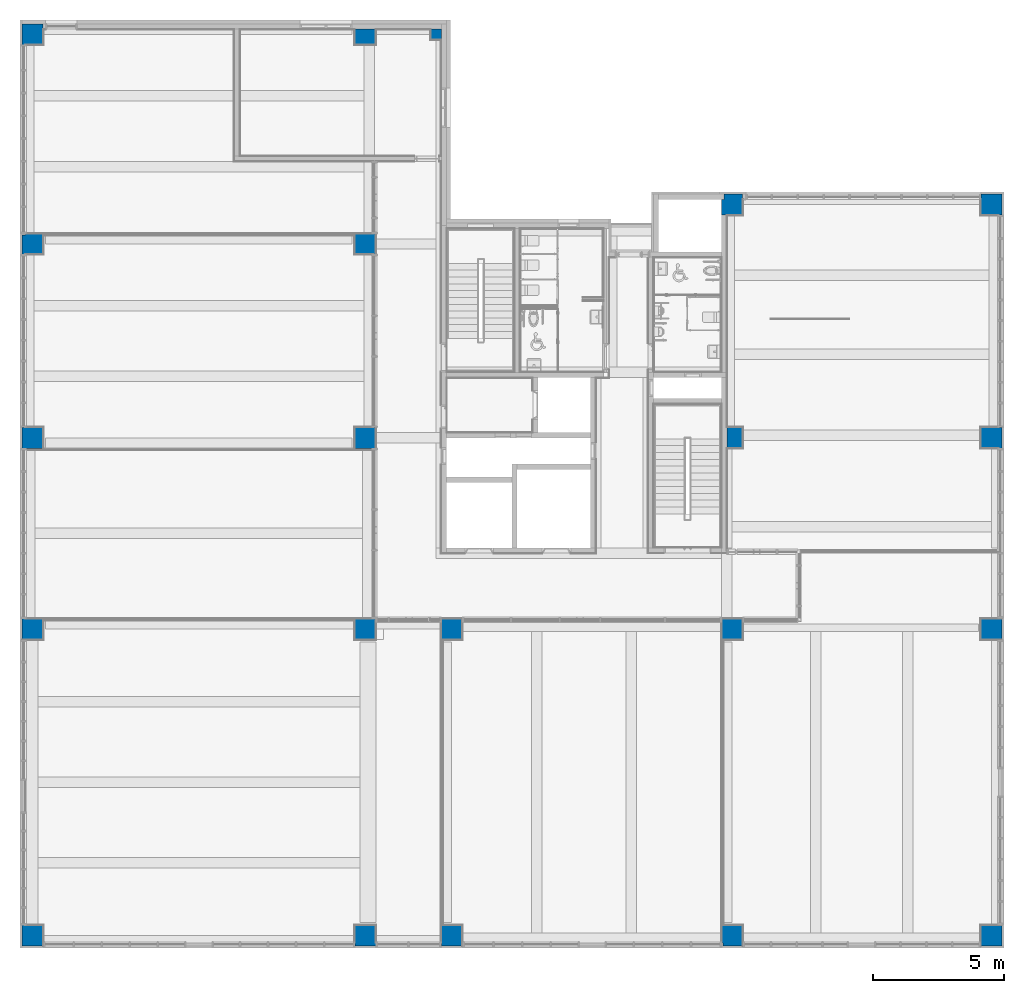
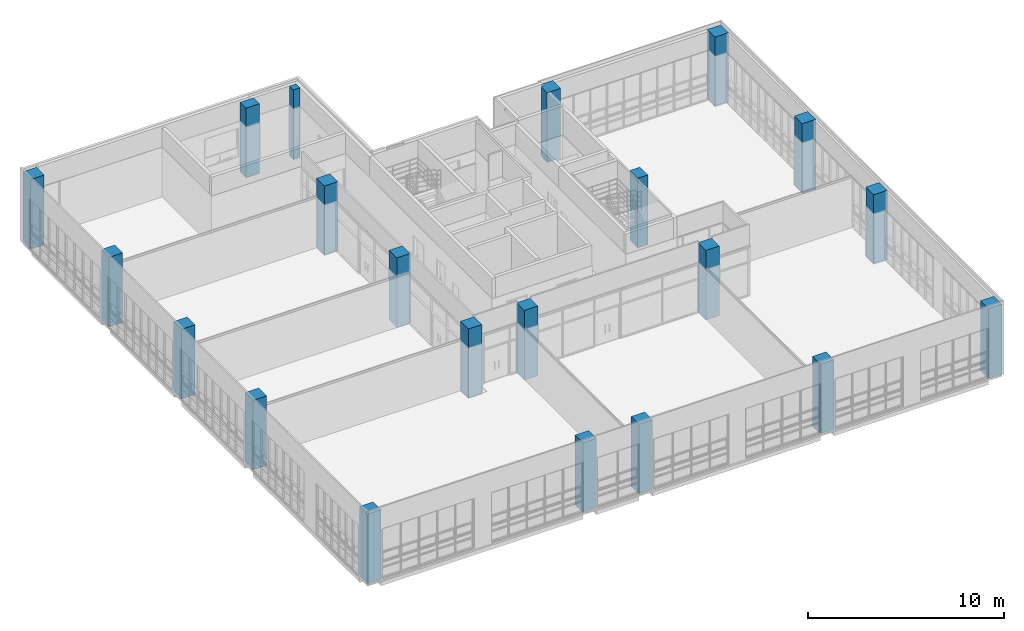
# One storey, part 1 of 74: 21 columns.
"""IFC2X3 building model written with IfcOpenShell, lengths in millimetres."""

from ifc_helpers import new_model, entity, si_unit, converted_unit, derived_unit, direction, frame, frame_2d, origin, origin_2d_with_axis, place, context, subcontext, project, spatial, polyline, rectangle, outline, extrude, source, transform, mapped, material, type_object, type_shapes, element, save


model = new_model("IFC2X3")

# Units and contexts
model_context = context("Model", 3, precision=0.01, world=origin(), true_north=direction((6.123031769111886e-17, 1.0)))
body_context = subcontext(model_context, "Body", "Model", "MODEL_VIEW")
ifc_project = project(units=[si_unit("LENGTHUNIT", "METRE", prefix="MILLI"), si_unit("AREAUNIT", "SQUARE_METRE"), si_unit("VOLUMEUNIT", "CUBIC_METRE"), converted_unit("PLANEANGLEUNIT", "DEGREE", entity("IfcRatioMeasure", 0.017453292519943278), si_unit("PLANEANGLEUNIT", "RADIAN"), dimensions=[0, 0, 0, 0, 0, 0, 0]), si_unit("MASSUNIT", "GRAM", prefix="KILO"), derived_unit("MASSDENSITYUNIT", [(si_unit("MASSUNIT", "GRAM", prefix="KILO"), 1), (si_unit("LENGTHUNIT", "METRE"), -3)]), derived_unit("MOMENTOFINERTIAUNIT", [(si_unit("LENGTHUNIT", "METRE"), 4)]), si_unit("TIMEUNIT", "SECOND"), si_unit("FREQUENCYUNIT", "HERTZ"), si_unit("THERMODYNAMICTEMPERATUREUNIT", "DEGREE_CELSIUS"), derived_unit("THERMALTRANSMITTANCEUNIT", [(si_unit("MASSUNIT", "GRAM", prefix="KILO"), 1), (si_unit("THERMODYNAMICTEMPERATUREUNIT", "KELVIN"), -1), (si_unit("TIMEUNIT", "SECOND"), -3)]), derived_unit("VOLUMETRICFLOWRATEUNIT", [(si_unit("LENGTHUNIT", "METRE"), 3), (si_unit("TIMEUNIT", "SECOND"), -1)]), derived_unit("MASSFLOWRATEUNIT", [(si_unit("MASSUNIT", "GRAM", prefix="KILO"), 1), (si_unit("TIMEUNIT", "SECOND"), -1)]), derived_unit("ROTATIONALFREQUENCYUNIT", [(si_unit("TIMEUNIT", "SECOND"), -1)]), si_unit("ELECTRICCURRENTUNIT", "AMPERE"), si_unit("ELECTRICVOLTAGEUNIT", "VOLT"), si_unit("POWERUNIT", "WATT"), si_unit("FORCEUNIT", "NEWTON", prefix="KILO"), si_unit("ILLUMINANCEUNIT", "LUX"), si_unit("LUMINOUSFLUXUNIT", "LUMEN"), si_unit("LUMINOUSINTENSITYUNIT", "CANDELA"), derived_unit("USERDEFINED", [(si_unit("MASSUNIT", "GRAM", prefix="KILO"), -1), (si_unit("LENGTHUNIT", "METRE"), -2), (si_unit("TIMEUNIT", "SECOND"), 3), (si_unit("LUMINOUSFLUXUNIT", "LUMEN"), 1)]), derived_unit("SOUNDPOWERUNIT", [(si_unit("MASSUNIT", "GRAM", prefix="KILO"), 1), (si_unit("LENGTHUNIT", "METRE"), 2), (si_unit("TIMEUNIT", "SECOND"), -3)]), derived_unit("SOUNDPRESSUREUNIT", [(si_unit("MASSUNIT", "GRAM", prefix="KILO"), 1), (si_unit("LENGTHUNIT", "METRE"), -1), (si_unit("TIMEUNIT", "SECOND"), -2)]), derived_unit("LINEARVELOCITYUNIT", [(si_unit("LENGTHUNIT", "METRE"), 1), (si_unit("TIMEUNIT", "SECOND"), -1)]), si_unit("PRESSUREUNIT", "PASCAL"), derived_unit("USERDEFINED", [(si_unit("LENGTHUNIT", "METRE"), -2), (si_unit("MASSUNIT", "GRAM", prefix="KILO"), 1), (si_unit("TIMEUNIT", "SECOND"), -2)]), derived_unit("LINEARFORCEUNIT", [(si_unit("MASSUNIT", "GRAM", prefix="KILO"), 1), (si_unit("LENGTHUNIT", "METRE"), 1), (si_unit("TIMEUNIT", "SECOND"), -2), (si_unit("LENGTHUNIT", "METRE"), -1)]), derived_unit("PLANARFORCEUNIT", [(si_unit("MASSUNIT", "GRAM", prefix="KILO"), 1), (si_unit("LENGTHUNIT", "METRE"), 1), (si_unit("TIMEUNIT", "SECOND"), -2), (si_unit("LENGTHUNIT", "METRE"), -2)])], contexts=[model_context])

# Site, building, storey
site_placement = place(None, frame((-14167.972527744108, -657.2125860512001, 0.0)))
site = spatial("IfcSite", under=ifc_project, at=site_placement, Name="Default", CompositionType="ELEMENT")
building_placement = place(site_placement, origin())
building = spatial("IfcBuilding", under=site, at=building_placement, Name="Sample Building", CompositionType="ELEMENT")
storey_placement = place(building_placement, frame((0.0, 0.0, 4800.0)))
storey = spatial("IfcBuildingStorey", under=building, at=storey_placement, Name="지상 2층", CompositionType="ELEMENT", Elevation=4800.000000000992)

# Columns
ifc_material = material(Name="KBIMS-콘크리트")
column_type_1 = type_object("IfcColumnType", Name="CL111-철근콘크리트구조 기둥 (각형)1:CL111-철근콘크리트구조 기둥 (각형)_800x800_B2-7C3", PredefinedType="COLUMN", material=ifc_material)
shared_shape_1 = source(origin(), body_context, "Body", "SweptSolid", [
    extrude(rectangle(XDim=799.9999999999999, YDim=800.0, at=frame_2d((-5.684341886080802e-14, 0.0), x_axis=(1.0, 0.0))), frame((14467.955105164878, 957.2121951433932, 4800.0), z_axis=(0.0, 0.0, 1.0), x_axis=(0.0, -1.0, 0.0)), (0.0, 0.0, 1.0), 4350.000000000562),
])
type_shapes(column_type_1, [shared_shape_1])
column_1_placement = place(storey_placement, frame((0.0, 0.0, -4800.0)))
element("IfcColumn", 1, at=column_1_placement, inside=storey, type_object=column_type_1, material=ifc_material, Name="CL111-철근콘크리트구조 기둥 (각형)1:CL111-철근콘크리트구조 기둥 (각형)_800x800_B2-7C3", ObjectType="CL111-철근콘크리트구조 기둥 (각형)1:CL111-철근콘크리트구조 기둥 (각형)_800x800_B2-7C3", context=body_context, shape_type="MappedRepresentation", body=[
    mapped(shared_shape_1, transform((0.0, 0.0, 0.0), scale=1.0)),
])
column_type_2 = type_object("IfcColumnType", Name="CL111-철근콘크리트구조 기둥 (각형)1:CL111-철근콘크리트구조 기둥 (각형)_800x800_2-7C2", PredefinedType="COLUMN", material=ifc_material)
shared_shape_2 = source(origin(), body_context, "Body", "SweptSolid", [
    extrude(rectangle(XDim=799.9999999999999, YDim=800.0, at=frame_2d((-5.684341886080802e-14, 0.0), x_axis=(1.0, 0.0))), frame((27167.955141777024, 957.2121951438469, 4800.0), z_axis=(0.0, 0.0, 1.0), x_axis=(0.0, -1.0, 0.0)), (0.0, 0.0, 1.0), 4350.000000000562),
])
type_shapes(column_type_2, [shared_shape_2])
column_2_placement = place(storey_placement, frame((0.0, 0.0, -4800.0)))
element("IfcColumn", 2, at=column_2_placement, inside=storey, type_object=column_type_2, material=ifc_material, Name="CL111-철근콘크리트구조 기둥 (각형)1:CL111-철근콘크리트구조 기둥 (각형)_800x800_2-7C2", ObjectType="CL111-철근콘크리트구조 기둥 (각형)1:CL111-철근콘크리트구조 기둥 (각형)_800x800_2-7C2", context=body_context, shape_type="MappedRepresentation", body=[
    mapped(shared_shape_2, transform((0.0, 0.0, 0.0), scale=1.0)),
])
column_type_3 = type_object("IfcColumnType", Name="CL111-철근콘크리트구조 기둥 (각형)1:CL111-철근콘크리트구조 기둥 (각형)_800x800_2-7C2", PredefinedType="COLUMN", material=ifc_material)
shared_shape_3 = source(origin(), body_context, "Body", "SweptSolid", [
    extrude(rectangle(XDim=799.9999999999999, YDim=800.0, at=frame_2d((-5.684341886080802e-14, 0.0), x_axis=(1.0, 0.0))), frame((30467.95511434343, 957.2121951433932, 4800.0), z_axis=(0.0, 0.0, 1.0), x_axis=(0.0, -1.0, 0.0)), (0.0, 0.0, 1.0), 4350.000000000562),
])
type_shapes(column_type_3, [shared_shape_3])
column_3_placement = place(storey_placement, frame((0.0, 0.0, -4800.0)))
element("IfcColumn", 3, at=column_3_placement, inside=storey, type_object=column_type_3, material=ifc_material, Name="CL111-철근콘크리트구조 기둥 (각형)1:CL111-철근콘크리트구조 기둥 (각형)_800x800_2-7C2", ObjectType="CL111-철근콘크리트구조 기둥 (각형)1:CL111-철근콘크리트구조 기둥 (각형)_800x800_2-7C2", context=body_context, shape_type="MappedRepresentation", body=[
    mapped(shared_shape_3, transform((0.0, 0.0, 0.0), scale=1.0)),
])
column_type_4 = type_object("IfcColumnType", Name="CL111-철근콘크리트구조 기둥 (각형)1:CL111-철근콘크리트구조 기둥 (각형)_800x800_2-7C2", PredefinedType="COLUMN", material=ifc_material)
shared_shape_4 = source(origin(), body_context, "Body", "SweptSolid", [
    extrude(outline(polyline([(-491.6666333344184, -283.33911645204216), (183.33326666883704, -283.33911645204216), (183.33326666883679, -233.32176709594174), (308.33336666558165, -233.32176709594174), (308.33336666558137, 516.660883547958), (-491.6666333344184, 516.660883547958), (-491.6666333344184, -283.33911645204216)])), frame((41051.29425822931, 865.5455618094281, 4800.0), z_axis=(0.0, 0.0, 1.0), x_axis=(0.0, -1.0, 0.0)), (0.0, 0.0, 1.0), 4350.000000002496),
])
type_shapes(column_type_4, [shared_shape_4])
column_4_placement = place(storey_placement, frame((0.0, 0.0, -4800.0)))
element("IfcColumn", 4, at=column_4_placement, inside=storey, type_object=column_type_4, material=ifc_material, Name="CL111-철근콘크리트구조 기둥 (각형)1:CL111-철근콘크리트구조 기둥 (각형)_800x800_2-7C2", ObjectType="CL111-철근콘크리트구조 기둥 (각형)1:CL111-철근콘크리트구조 기둥 (각형)_800x800_2-7C2", context=body_context, shape_type="MappedRepresentation", body=[
    mapped(shared_shape_4, transform((0.0, 0.0, 0.0), scale=1.0)),
])
column_type_5 = type_object("IfcColumnType", Name="CL111-철근콘크리트구조 기둥 (각형)1:CL111-철근콘크리트구조 기둥 (각형)_800x800_B2-7C3", PredefinedType="COLUMN", material=ifc_material)
shared_shape_5 = source(origin(), body_context, "Body", "SweptSolid", [
    extrude(rectangle(XDim=799.9999999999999, YDim=800.0, at=frame_2d((0.0, -4.348521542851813e-12), x_axis=(1.0, 0.0))), frame((51067.96383810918, 957.2126170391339, 4800.0), z_axis=(0.0, 0.0, 1.0), x_axis=(0.0, -1.0, 0.0)), (0.0, 0.0, 1.0), 4350.000000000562),
])
type_shapes(column_type_5, [shared_shape_5])
column_5_placement = place(storey_placement, frame((0.0, 0.0, -4800.0)))
element("IfcColumn", 5, at=column_5_placement, inside=storey, type_object=column_type_5, material=ifc_material, Name="CL111-철근콘크리트구조 기둥 (각형)1:CL111-철근콘크리트구조 기둥 (각형)_800x800_B2-7C3", ObjectType="CL111-철근콘크리트구조 기둥 (각형)1:CL111-철근콘크리트구조 기둥 (각형)_800x800_B2-7C3", context=body_context, shape_type="MappedRepresentation", body=[
    mapped(shared_shape_5, transform((0.0, 0.0, 0.0), scale=1.0)),
])
column_type_6 = type_object("IfcColumnType", Name="CL111-철근콘크리트구조 기둥 (각형)1:CL111-철근콘크리트구조 기둥 (각형)_800x800_2-7C2", PredefinedType="COLUMN", material=ifc_material)
shared_shape_6 = source(origin(), body_context, "Body", "SweptSolid", [
    extrude(rectangle(XDim=800.0000000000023, YDim=800.0000000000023, at=origin_2d_with_axis()), frame((14467.95510516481, 12657.21261703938, 4800.0), z_axis=(0.0, 0.0, 1.0), x_axis=(0.0, -1.0, 0.0)), (0.0, 0.0, 1.0), 4350.000000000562),
])
type_shapes(column_type_6, [shared_shape_6])
column_6_placement = place(storey_placement, frame((0.0, 0.0, -4800.0)))
element("IfcColumn", 6, at=column_6_placement, inside=storey, type_object=column_type_6, material=ifc_material, Name="CL111-철근콘크리트구조 기둥 (각형)1:CL111-철근콘크리트구조 기둥 (각형)_800x800_2-7C2", ObjectType="CL111-철근콘크리트구조 기둥 (각형)1:CL111-철근콘크리트구조 기둥 (각형)_800x800_2-7C2", context=body_context, shape_type="MappedRepresentation", body=[
    mapped(shared_shape_6, transform((0.0, 0.0, 0.0), scale=1.0)),
])
column_type_7 = type_object("IfcColumnType", Name="CL111-철근콘크리트구조 기둥 (각형)1:CL111-철근콘크리트구조 기둥 (각형)_800x800_2-7C2", PredefinedType="COLUMN", material=ifc_material)
shared_shape_7 = source(origin(), body_context, "Body", "SweptSolid", [
    extrude(rectangle(XDim=800.0, YDim=800.0, at=origin_2d_with_axis()), frame((27167.955141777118, 12657.21261703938, 4800.0), z_axis=(0.0, 0.0, 1.0), x_axis=(0.0, -1.0, 0.0)), (0.0, 0.0, 1.0), 4350.000000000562),
])
type_shapes(column_type_7, [shared_shape_7])
column_7_placement = place(storey_placement, frame((0.0, 0.0, -4800.0)))
element("IfcColumn", 7, at=column_7_placement, inside=storey, type_object=column_type_7, material=ifc_material, Name="CL111-철근콘크리트구조 기둥 (각형)1:CL111-철근콘크리트구조 기둥 (각형)_800x800_2-7C2", ObjectType="CL111-철근콘크리트구조 기둥 (각형)1:CL111-철근콘크리트구조 기둥 (각형)_800x800_2-7C2", context=body_context, shape_type="MappedRepresentation", body=[
    mapped(shared_shape_7, transform((0.0, 0.0, 0.0), scale=1.0)),
])
column_type_8 = type_object("IfcColumnType", Name="CL111-철근콘크리트구조 기둥 (각형)1:CL111-철근콘크리트구조 기둥 (각형)_800x800_2-7C2", PredefinedType="COLUMN", material=ifc_material)
shared_shape_8 = source(origin(), body_context, "Body", "SweptSolid", [
    extrude(rectangle(XDim=800.0, YDim=800.0, at=origin_2d_with_axis()), frame((30467.95511434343, 12657.212617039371, 4800.0), z_axis=(0.0, 0.0, 1.0), x_axis=(0.0, -1.0, 0.0)), (0.0, 0.0, 1.0), 4350.000000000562),
])
type_shapes(column_type_8, [shared_shape_8])
column_8_placement = place(storey_placement, frame((0.0, 0.0, -4800.0)))
element("IfcColumn", 8, at=column_8_placement, inside=storey, type_object=column_type_8, material=ifc_material, Name="CL111-철근콘크리트구조 기둥 (각형)1:CL111-철근콘크리트구조 기둥 (각형)_800x800_2-7C2", ObjectType="CL111-철근콘크리트구조 기둥 (각형)1:CL111-철근콘크리트구조 기둥 (각형)_800x800_2-7C2", context=body_context, shape_type="MappedRepresentation", body=[
    mapped(shared_shape_8, transform((0.0, 0.0, 0.0), scale=1.0)),
])
column_type_9 = type_object("IfcColumnType", Name="CL111-철근콘크리트구조 기둥 (각형)1:CL111-철근콘크리트구조 기둥 (각형)_800x800_2-7C2", PredefinedType="COLUMN", material=ifc_material)
shared_shape_9 = source(origin(), body_context, "Body", "SweptSolid", [
    extrude(rectangle(XDim=800.0, YDim=800.0, at=frame_2d((0.0, -4.348521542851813e-12), x_axis=(1.0, 0.0))), frame((41167.955141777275, 12657.212617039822, 4800.0), z_axis=(0.0, 0.0, 1.0), x_axis=(0.0, -1.0, 0.0)), (0.0, 0.0, 1.0), 4350.000000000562),
])
type_shapes(column_type_9, [shared_shape_9])
column_9_placement = place(storey_placement, frame((0.0, 0.0, -4800.0)))
element("IfcColumn", 9, at=column_9_placement, inside=storey, type_object=column_type_9, material=ifc_material, Name="CL111-철근콘크리트구조 기둥 (각형)1:CL111-철근콘크리트구조 기둥 (각형)_800x800_2-7C2", ObjectType="CL111-철근콘크리트구조 기둥 (각형)1:CL111-철근콘크리트구조 기둥 (각형)_800x800_2-7C2", context=body_context, shape_type="MappedRepresentation", body=[
    mapped(shared_shape_9, transform((0.0, 0.0, 0.0), scale=1.0)),
])
column_type_10 = type_object("IfcColumnType", Name="CL111-철근콘크리트구조 기둥 (각형)1:CL111-철근콘크리트구조 기둥 (각형)_800x800_2-7C2", PredefinedType="COLUMN", material=ifc_material)
shared_shape_10 = source(origin(), body_context, "Body", "SweptSolid", [
    extrude(rectangle(XDim=800.0000000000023, YDim=800.0, at=frame_2d((0.0, 4.348521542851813e-12), x_axis=(1.0, 0.0))), frame((51067.95513594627, 12657.213038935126, 4800.0), z_axis=(0.0, 0.0, 1.0), x_axis=(0.0, -1.0, 0.0)), (0.0, 0.0, 1.0), 4350.000000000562),
])
type_shapes(column_type_10, [shared_shape_10])
column_10_placement = place(storey_placement, frame((0.0, 0.0, -4800.0)))
element("IfcColumn", 10, at=column_10_placement, inside=storey, type_object=column_type_10, material=ifc_material, Name="CL111-철근콘크리트구조 기둥 (각형)1:CL111-철근콘크리트구조 기둥 (각형)_800x800_2-7C2", ObjectType="CL111-철근콘크리트구조 기둥 (각형)1:CL111-철근콘크리트구조 기둥 (각형)_800x800_2-7C2", context=body_context, shape_type="MappedRepresentation", body=[
    mapped(shared_shape_10, transform((0.0, 0.0, 0.0), scale=1.0)),
])
column_type_11 = type_object("IfcColumnType", Name="CL111-철근콘크리트구조 기둥 (각형)1:CL111-철근콘크리트구조 기둥 (각형)_800x800_2-7C2", PredefinedType="COLUMN", material=ifc_material)
shared_shape_11 = source(origin(), body_context, "Body", "SweptSolid", [
    extrude(rectangle(XDim=800.0, YDim=800.0000000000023, at=origin_2d_with_axis()), frame((14467.955105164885, 19957.21261703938, 4800.0), z_axis=(0.0, 0.0, 1.0), x_axis=(0.0, -1.0, 0.0)), (0.0, 0.0, 1.0), 4350.000000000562),
])
type_shapes(column_type_11, [shared_shape_11])
column_11_placement = place(storey_placement, frame((0.0, 0.0, -4800.0)))
element("IfcColumn", 11, at=column_11_placement, inside=storey, type_object=column_type_11, material=ifc_material, Name="CL111-철근콘크리트구조 기둥 (각형)1:CL111-철근콘크리트구조 기둥 (각형)_800x800_2-7C2", ObjectType="CL111-철근콘크리트구조 기둥 (각형)1:CL111-철근콘크리트구조 기둥 (각형)_800x800_2-7C2", context=body_context, shape_type="MappedRepresentation", body=[
    mapped(shared_shape_11, transform((0.0, 0.0, 0.0), scale=1.0)),
])
column_type_12 = type_object("IfcColumnType", Name="CL111-철근콘크리트구조 기둥 (각형)1:CL111-철근콘크리트구조 기둥 (각형)_800x800_2-7C2", PredefinedType="COLUMN", material=ifc_material)
shared_shape_12 = source(origin(), body_context, "Body", "SweptSolid", [
    extrude(rectangle(XDim=800.0, YDim=800.0, at=origin_2d_with_axis()), frame((27167.95514177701, 19957.212617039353, 4800.0), z_axis=(0.0, 0.0, 1.0), x_axis=(0.0, -1.0, 0.0)), (0.0, 0.0, 1.0), 4350.000000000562),
])
type_shapes(column_type_12, [shared_shape_12])
column_12_placement = place(storey_placement, frame((0.0, 0.0, -4800.0)))
element("IfcColumn", 12, at=column_12_placement, inside=storey, type_object=column_type_12, material=ifc_material, Name="CL111-철근콘크리트구조 기둥 (각형)1:CL111-철근콘크리트구조 기둥 (각형)_800x800_2-7C2", ObjectType="CL111-철근콘크리트구조 기둥 (각형)1:CL111-철근콘크리트구조 기둥 (각형)_800x800_2-7C2", context=body_context, shape_type="MappedRepresentation", body=[
    mapped(shared_shape_12, transform((0.0, 0.0, 0.0), scale=1.0)),
])
column_type_13 = type_object("IfcColumnType", Name="CL111-철근콘크리트구조 기둥 (각형)1:CL111-철근콘크리트구조 기둥 (각형)_800x800_B2-4C1", PredefinedType="COLUMN", material=ifc_material)
shared_shape_13 = source(origin(), body_context, "Body", "SweptSolid", [
    extrude(rectangle(XDim=800.0, YDim=599.9913238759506, at=origin_2d_with_axis()), frame((41267.959460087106, 19957.21261703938, 4800.0), z_axis=(0.0, 0.0, 1.0), x_axis=(0.0, -1.0, 0.0)), (0.0, 0.0, 1.0), 4350.000000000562),
])
type_shapes(column_type_13, [shared_shape_13])
column_13_placement = place(storey_placement, frame((0.0, 0.0, -4800.0)))
element("IfcColumn", 13, at=column_13_placement, inside=storey, type_object=column_type_13, material=ifc_material, Name="CL111-철근콘크리트구조 기둥 (각형)1:CL111-철근콘크리트구조 기둥 (각형)_800x800_B2-4C1", ObjectType="CL111-철근콘크리트구조 기둥 (각형)1:CL111-철근콘크리트구조 기둥 (각형)_800x800_B2-4C1", context=body_context, shape_type="MappedRepresentation", body=[
    mapped(shared_shape_13, transform((0.0, 0.0, 0.0), scale=1.0)),
])
column_type_14 = type_object("IfcColumnType", Name="CL111-철근콘크리트구조 기둥 (각형)1:CL111-철근콘크리트구조 기둥 (각형)_800x800_B2-4C1", PredefinedType="COLUMN", material=ifc_material)
shared_shape_14 = source(origin(), body_context, "Body", "SweptSolid", [
    extrude(rectangle(XDim=800.0, YDim=800.0, at=frame_2d((0.0, -4.348521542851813e-12), x_axis=(1.0, 0.0))), frame((51067.963865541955, 19957.21261703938, 4800.0), z_axis=(0.0, 0.0, 1.0), x_axis=(0.0, -1.0, 0.0)), (0.0, 0.0, 1.0), 4350.000000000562),
])
type_shapes(column_type_14, [shared_shape_14])
column_14_placement = place(storey_placement, frame((0.0, 0.0, -4800.0)))
element("IfcColumn", 14, at=column_14_placement, inside=storey, type_object=column_type_14, material=ifc_material, Name="CL111-철근콘크리트구조 기둥 (각형)1:CL111-철근콘크리트구조 기둥 (각형)_800x800_B2-4C1", ObjectType="CL111-철근콘크리트구조 기둥 (각형)1:CL111-철근콘크리트구조 기둥 (각형)_800x800_B2-4C1", context=body_context, shape_type="MappedRepresentation", body=[
    mapped(shared_shape_14, transform((0.0, 0.0, 0.0), scale=1.0)),
])
column_type_15 = type_object("IfcColumnType", Name="CL111-철근콘크리트구조 기둥 (각형)1:CL111-철근콘크리트구조 기둥 (각형)_800x800_2-7C2", PredefinedType="COLUMN", material=ifc_material)
shared_shape_15 = source(origin(), body_context, "Body", "SweptSolid", [
    extrude(outline(polyline([(-233.33331267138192, -308.3391552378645), (516.6666563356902, -308.3391552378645), (516.6666563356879, 491.6608447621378), (-283.3333436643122, 491.66084476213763), (-283.33334366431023, -183.32168952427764), (-233.33331267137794, -183.32168952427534), (-233.33331267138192, -308.3391552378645)])), frame((14376.294260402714, 27473.8792733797, 4800.0), z_axis=(0.0, 0.0, 1.0), x_axis=(0.0, -1.0, 0.0)), (0.0, 0.0, 1.0), 4350.000000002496),
])
type_shapes(column_type_15, [shared_shape_15])
column_15_placement = place(storey_placement, frame((0.0, 0.0, -4800.0)))
element("IfcColumn", 15, at=column_15_placement, inside=storey, type_object=column_type_15, material=ifc_material, Name="CL111-철근콘크리트구조 기둥 (각형)1:CL111-철근콘크리트구조 기둥 (각형)_800x800_2-7C2", ObjectType="CL111-철근콘크리트구조 기둥 (각형)1:CL111-철근콘크리트구조 기둥 (각형)_800x800_2-7C2", context=body_context, shape_type="MappedRepresentation", body=[
    mapped(shared_shape_15, transform((0.0, 0.0, 0.0), scale=1.0)),
])
column_type_16 = type_object("IfcColumnType", Name="CL111-철근콘크리트구조 기둥 (각형)1:CL111-철근콘크리트구조 기둥 (각형)_800x800_2-7C2", PredefinedType="COLUMN", material=ifc_material)
shared_shape_16 = source(origin(), body_context, "Body", "SweptSolid", [
    extrude(rectangle(XDim=800.0, YDim=800.0, at=origin_2d_with_axis()), frame((27167.955141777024, 27357.212617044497, 4800.0), z_axis=(0.0, 0.0, 1.0), x_axis=(0.0, -1.0, 0.0)), (0.0, 0.0, 1.0), 4350.000000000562),
])
type_shapes(column_type_16, [shared_shape_16])
column_16_placement = place(storey_placement, frame((0.0, 0.0, -4800.0)))
element("IfcColumn", 16, at=column_16_placement, inside=storey, type_object=column_type_16, material=ifc_material, Name="CL111-철근콘크리트구조 기둥 (각형)1:CL111-철근콘크리트구조 기둥 (각형)_800x800_2-7C2", ObjectType="CL111-철근콘크리트구조 기둥 (각형)1:CL111-철근콘크리트구조 기둥 (각형)_800x800_2-7C2", context=body_context, shape_type="MappedRepresentation", body=[
    mapped(shared_shape_16, transform((0.0, 0.0, 0.0), scale=1.0)),
])
column_type_17 = type_object("IfcColumnType", Name="CL111-철근콘크리트구조 기둥 (각형)1:CL111-철근콘크리트구조 기둥 (각형)_800x800_B2-4C1", PredefinedType="COLUMN", material=ifc_material)
shared_shape_17 = source(origin(), body_context, "Body", "SweptSolid", [
    extrude(outline(polyline([(-133.33312729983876, -300.0028854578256), (466.6665636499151, -300.0028854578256), (466.6665636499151, 499.9971145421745), (-333.333436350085, 499.9971145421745), (-333.333436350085, -199.99422908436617), (-133.33312729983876, -199.99422908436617), (-133.33312729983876, -300.0028854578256)])), frame((41067.9580272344, 28923.87918068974, 4800.0), z_axis=(0.0, 0.0, 1.0), x_axis=(0.0, -1.0, 0.0)), (0.0, 0.0, 1.0), 4350.000000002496),
])
type_shapes(column_type_17, [shared_shape_17])
column_17_placement = place(storey_placement, frame((0.0, 0.0, -4800.0)))
element("IfcColumn", 17, at=column_17_placement, inside=storey, type_object=column_type_17, material=ifc_material, Name="CL111-철근콘크리트구조 기둥 (각형)1:CL111-철근콘크리트구조 기둥 (각형)_800x800_B2-4C1", ObjectType="CL111-철근콘크리트구조 기둥 (각형)1:CL111-철근콘크리트구조 기둥 (각형)_800x800_B2-4C1", context=body_context, shape_type="MappedRepresentation", body=[
    mapped(shared_shape_17, transform((0.0, 0.0, 0.0), scale=1.0)),
])
column_type_18 = type_object("IfcColumnType", Name="CL111-철근콘크리트구조 기둥 (각형)1:CL111-철근콘크리트구조 기둥 (각형)_800x800_B2-4C1", PredefinedType="COLUMN", material=ifc_material)
shared_shape_18 = source(origin(), body_context, "Body", "SweptSolid", [
    extrude(outline(polyline([(-533.0001030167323, -491.66665446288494), (266.99989698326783, -491.66665446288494), (266.99989698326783, 183.3333089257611), (266.00020603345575, 183.3333089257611), (266.00020603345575, 308.3333455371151), (-533.0001030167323, 308.3333455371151), (-533.0001030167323, -491.66665446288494)])), frame((51159.63052000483, 28724.212601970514, 4800.0), z_axis=(0.0, 0.0, 1.0), x_axis=(0.0, -1.0, 0.0)), (0.0, 0.0, 1.0), 4350.000000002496),
])
type_shapes(column_type_18, [shared_shape_18])
column_18_placement = place(storey_placement, frame((0.0, 0.0, -4800.0)))
element("IfcColumn", 18, at=column_18_placement, inside=storey, type_object=column_type_18, material=ifc_material, Name="CL111-철근콘크리트구조 기둥 (각형)1:CL111-철근콘크리트구조 기둥 (각형)_800x800_B2-4C1", ObjectType="CL111-철근콘크리트구조 기둥 (각형)1:CL111-철근콘크리트구조 기둥 (각형)_800x800_B2-4C1", context=body_context, shape_type="MappedRepresentation", body=[
    mapped(shared_shape_18, transform((0.0, 0.0, 0.0), scale=1.0)),
])
column_type_19 = type_object("IfcColumnType", Name="CL111-철근콘크리트구조 기둥 (각형)1:CL111-철근콘크리트구조 기둥 (각형)_800x800_B2-7C3", PredefinedType="COLUMN", material=ifc_material)
shared_shape_19 = source(origin(), body_context, "Body", "SweptSolid", [
    extrude(rectangle(XDim=800.0, YDim=800.0, at=origin_2d_with_axis()), frame((14467.955105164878, 35357.21258960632, 4800.0), z_axis=(0.0, 0.0, 1.0), x_axis=(0.0, -1.0, 0.0)), (0.0, 0.0, 1.0), 4350.000000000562),
])
type_shapes(column_type_19, [shared_shape_19])
column_19_placement = place(storey_placement, frame((0.0, 0.0, -4800.0)))
element("IfcColumn", 19, at=column_19_placement, inside=storey, type_object=column_type_19, material=ifc_material, Name="CL111-철근콘크리트구조 기둥 (각형)1:CL111-철근콘크리트구조 기둥 (각형)_800x800_B2-7C3", ObjectType="CL111-철근콘크리트구조 기둥 (각형)1:CL111-철근콘크리트구조 기둥 (각형)_800x800_B2-7C3", context=body_context, shape_type="MappedRepresentation", body=[
    mapped(shared_shape_19, transform((0.0, 0.0, 0.0), scale=1.0)),
])
column_type_20 = type_object("IfcColumnType", Name="CL111-철근콘크리트구조 기둥 (각형)1:CL111-철근콘크리트구조 기둥 (각형)_800x800_2-7C2", PredefinedType="COLUMN", material=ifc_material)
shared_shape_20 = source(origin(), body_context, "Body", "SweptSolid", [
    extrude(rectangle(XDim=599.9997055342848, YDim=800.0, at=frame_2d((2.1600499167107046e-12, 0.0), x_axis=(1.0, 0.0))), frame((27167.955141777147, 35257.21244237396, 4800.0), z_axis=(0.0, 0.0, 1.0), x_axis=(0.0, -1.0, 0.0)), (0.0, 0.0, 1.0), 4350.000000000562),
])
type_shapes(column_type_20, [shared_shape_20])
column_20_placement = place(storey_placement, frame((0.0, 0.0, -4800.0)))
element("IfcColumn", 20, at=column_20_placement, inside=storey, type_object=column_type_20, material=ifc_material, Name="CL111-철근콘크리트구조 기둥 (각형)1:CL111-철근콘크리트구조 기둥 (각형)_800x800_2-7C2", ObjectType="CL111-철근콘크리트구조 기둥 (각형)1:CL111-철근콘크리트구조 기둥 (각형)_800x800_2-7C2", context=body_context, shape_type="MappedRepresentation", body=[
    mapped(shared_shape_20, transform((0.0, 0.0, 0.0), scale=1.0)),
])
column_type_21 = type_object("IfcColumnType", Name="CL111-철근콘크리트구조 기둥 (각형)1:CL111-철근콘크리트구조 기둥 (각형)_600x600_B2-10C4", PredefinedType="COLUMN", material=ifc_material)
shared_shape_21 = source(origin(), body_context, "Body", "SweptSolid", [
    extrude(rectangle(XDim=399.9996781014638, YDim=400.01734935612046, at=frame_2d((-2.1600499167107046e-12, -2.1600499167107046e-12), x_axis=(1.0, 0.0))), frame((29867.955086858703, 35357.212456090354, 4800.0), z_axis=(0.0, 0.0, 1.0), x_axis=(0.0, -1.0, 0.0)), (0.0, 0.0, 1.0), 4350.000000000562),
])
type_shapes(column_type_21, [shared_shape_21])
column_21_placement = place(storey_placement, frame((0.0, 0.0, -4800.0)))
element("IfcColumn", 21, at=column_21_placement, inside=storey, type_object=column_type_21, material=ifc_material, Name="CL111-철근콘크리트구조 기둥 (각형)1:CL111-철근콘크리트구조 기둥 (각형)_600x600_B2-10C4", ObjectType="CL111-철근콘크리트구조 기둥 (각형)1:CL111-철근콘크리트구조 기둥 (각형)_600x600_B2-10C4", context=body_context, shape_type="MappedRepresentation", body=[
    mapped(shared_shape_21, transform((0.0, 0.0, 0.0), scale=1.0)),
])

save(model, "model.ifc")
